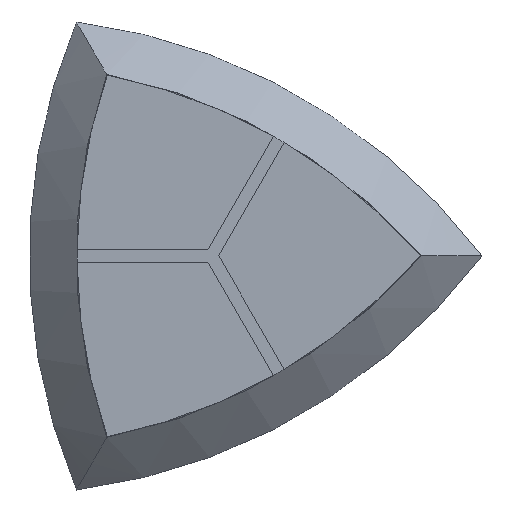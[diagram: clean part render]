
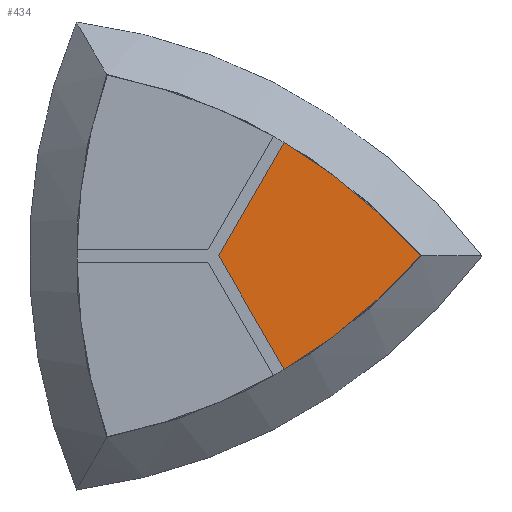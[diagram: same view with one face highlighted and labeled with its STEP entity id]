
A CAD part, top view. The second image highlights one B-rep face of the part: STEP entity #434.
In plain terms, the highlighted planar face has unit normal (0, 0, 1).
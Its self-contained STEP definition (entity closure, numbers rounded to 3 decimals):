
#287 = VERTEX_POINT('',#288);
#288 = CARTESIAN_POINT('',(22.857,-9.144,6.));
#296 = EDGE_CURVE('',#287,#297,#299,.T.);
#297 = VERTEX_POINT('',#298);
#298 = CARTESIAN_POINT('',(33.831,0.,6.));
#299 = CIRCLE('',#300,44.85);
#300 = AXIS2_PLACEMENT_3D('',#301,#302,#303);
#301 = CARTESIAN_POINT('',(0.,29.445,6.));
#302 = DIRECTION('',(0.,0.,1.));
#303 = DIRECTION('',(1.,0.,0.));
#321 = EDGE_CURVE('',#297,#322,#324,.T.);
#322 = VERTEX_POINT('',#323);
#323 = CARTESIAN_POINT('',(22.857,9.144,6.));
#324 = CIRCLE('',#325,44.85);
#325 = AXIS2_PLACEMENT_3D('',#326,#327,#328);
#326 = CARTESIAN_POINT('',(0.,-29.445,6.));
#327 = DIRECTION('',(0.,0.,1.));
#328 = DIRECTION('',(1.,0.,0.));
#434 = ADVANCED_FACE('',(#435),#453,.T.);
#435 = FACE_BOUND('',#436,.T.);
#436 = EDGE_LOOP('',(#437,#445,#446,#447));
#437 = ORIENTED_EDGE('',*,*,#438,.F.);
#438 = EDGE_CURVE('',#287,#439,#441,.T.);
#439 = VERTEX_POINT('',#440);
#440 = CARTESIAN_POINT('',(17.577,0.,6.));
#441 = LINE('',#442,#443);
#442 = CARTESIAN_POINT('',(22.857,-9.144,6.));
#443 = VECTOR('',#444,1.);
#444 = DIRECTION('',(-0.5,0.866,0.));
#445 = ORIENTED_EDGE('',*,*,#296,.T.);
#446 = ORIENTED_EDGE('',*,*,#321,.T.);
#447 = ORIENTED_EDGE('',*,*,#448,.T.);
#448 = EDGE_CURVE('',#322,#439,#449,.T.);
#449 = LINE('',#450,#451);
#450 = CARTESIAN_POINT('',(22.857,9.144,6.));
#451 = VECTOR('',#452,1.);
#452 = DIRECTION('',(-0.5,-0.866,0.));
#453 = PLANE('',#454);
#454 = AXIS2_PLACEMENT_3D('',#455,#456,#457);
#455 = CARTESIAN_POINT('',(17.,0.,6.));
#456 = DIRECTION('',(0.,0.,1.));
#457 = DIRECTION('',(1.,0.,0.));
